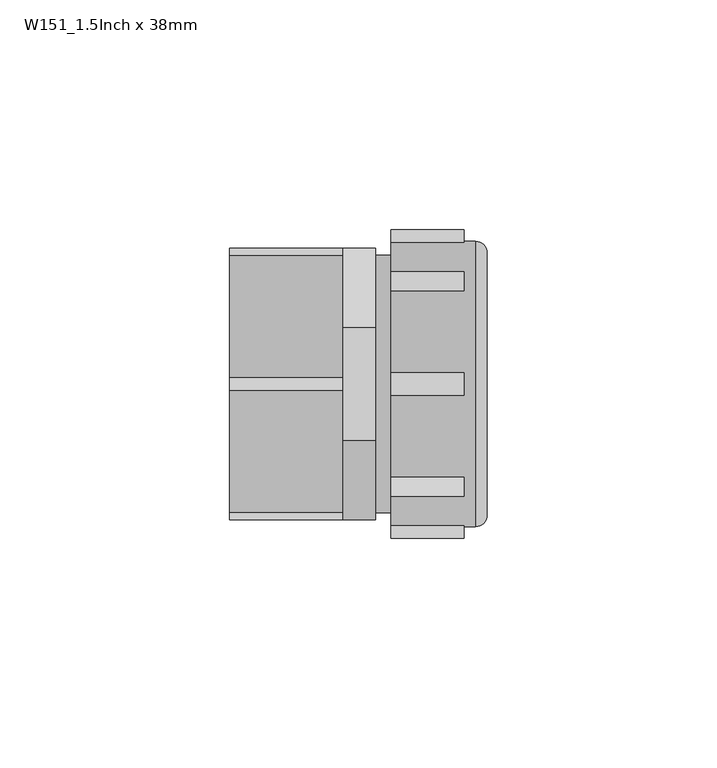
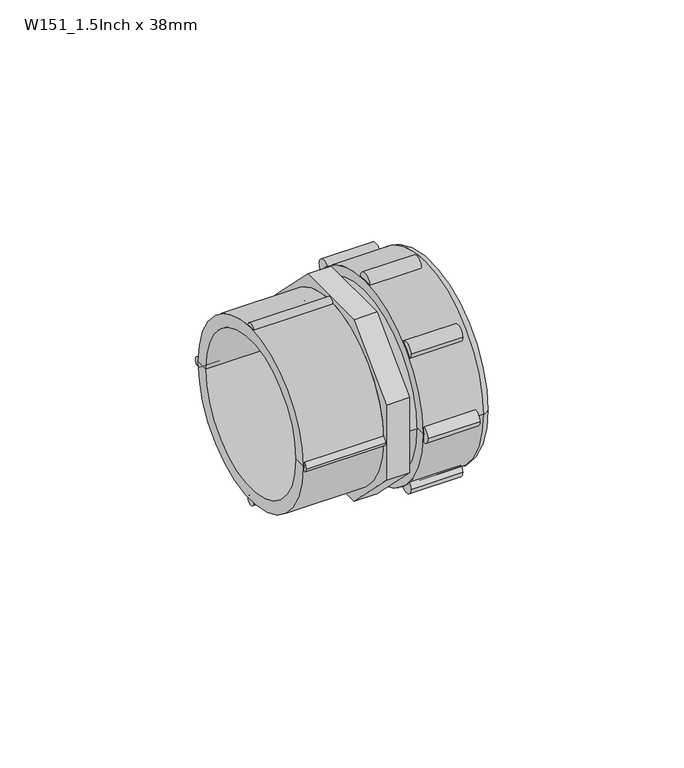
"""IFC4 building model written with IfcOpenShell, lengths in millimetres: pipe fitting geometry, Durapipe_PipeFitting_VulcatheneMechanical_FIToPipeCoupler_W15 : W151_1.5Inch x 38mm."""

from ifc_helpers import new_model, si_unit, point, frame, frame_2d, origin, place, context, project, spatial, polyline, circle_curve, ellipse_curve, trimmed, segment, composite_curve, outline, extrude, source, transform, mapped, element, save
from ifc_brep_helpers import plane_surface, cylinder_surface, revolved_surface, advanced_brep


def w151_1_5inch_x_38mm_36090209(model_context):
    return source(origin(), model_context, "Body", "SolidModel", [
        advanced_brep(
        [(23.8, 18.5969083, -18.5969083), (23.8, 17.1119841, -17.1119841), (23.8, -17.1119841, 17.1119841), (23.8, -18.5969083, 18.5969083), (18.8, 18.3140656, -18.3140656), (18.8, -18.3140656, 18.3140656), (17.3, 18.1019336, -18.1019336), (18.8, 18.1019336, -18.1019336), (18.8, -18.1019336, 18.1019336), (17.3, -18.1019336, 18.1019336), (17.3, -17.1119841, 17.1119841), (17.3, 17.1119841, -17.1119841), (19.3, -17.1119841, 17.1119841), (19.3, 17.1119841, -17.1119841), (19.3, -16.5462987, 16.5462987), (19.3, 16.5462987, -16.5462987), (21.6, 17.1119841, -17.1119841), (21.6, 16.5462987, -16.5462987), (21.6, -16.5462987, 16.5462987), (21.6, -17.1119841, 17.1119841)],
        [
            (0, 1),
            (1, 2, circle_curve(frame((23.8, 0.0, 0.0), z_axis=(-1.0, 0.0, 0.0), x_axis=(0.0, -0.7071067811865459, 0.7071067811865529)), 24.2)),
            (2, 3),
            (3, 0, circle_curve(frame((23.8, 0.0, 0.0), z_axis=(1.0, 0.0, 0.0), x_axis=(0.0, -0.7071067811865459, 0.7071067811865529)), 26.3)),
            (2, 1, circle_curve(frame((23.8, 0.0, 0.0), z_axis=(-1.0, 0.0, 0.0), x_axis=(0.0, -0.7071067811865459, 0.7071067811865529)), 24.2)),
            (0, 3, circle_curve(frame((23.8, 0.0, 0.0), z_axis=(1.0, 0.0, 0.0), x_axis=(0.0, -0.7071067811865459, 0.7071067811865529)), 26.3)),
            (4, 0),
            (3, 5),
            (5, 4, circle_curve(frame((18.8, 0.0, 0.0), z_axis=(1.0, 0.0, 0.0), x_axis=(0.0, -0.7071067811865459, 0.7071067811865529)), 25.9)),
            (4, 5, circle_curve(frame((18.8, 0.0, 0.0), z_axis=(1.0, 0.0, 0.0), x_axis=(0.0, -0.7071067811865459, 0.7071067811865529)), 25.9)),
            (6, 7),
            (7, 8, circle_curve(frame((18.8, 0.0, 0.0), z_axis=(-1.0, 0.0, 0.0), x_axis=(0.0, -0.7071067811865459, 0.7071067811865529)), 25.6)),
            (8, 9),
            (9, 6, circle_curve(frame((17.3, 0.0, 0.0), z_axis=(1.0, 0.0, 0.0), x_axis=(0.0, -0.7071067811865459, 0.7071067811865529)), 25.6)),
            (8, 7, circle_curve(frame((18.8, 0.0, 0.0), z_axis=(-1.0, 0.0, 0.0), x_axis=(0.0, -0.7071067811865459, 0.7071067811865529)), 25.6)),
            (6, 9, circle_curve(frame((17.3, 0.0, 0.0), z_axis=(1.0, 0.0, 0.0), x_axis=(0.0, -0.7071067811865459, 0.7071067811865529)), 25.6)),
            (9, 10),
            (10, 11, circle_curve(frame((17.3, 0.0, 0.0), z_axis=(1.0, 0.0, 0.0), x_axis=(0.0, -0.7071067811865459, 0.7071067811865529)), 24.2)),
            (11, 6),
            (11, 10, circle_curve(frame((17.3, 0.0, 0.0), z_axis=(1.0, 0.0, 0.0), x_axis=(0.0, -0.7071067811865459, 0.7071067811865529)), 24.2)),
            (10, 12),
            (12, 13, circle_curve(frame((19.3, 0.0, 0.0), z_axis=(1.0, 0.0, 0.0), x_axis=(0.0, -0.7071067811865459, 0.7071067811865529)), 24.2)),
            (13, 11),
            (13, 12, circle_curve(frame((19.3, 0.0, 0.0), z_axis=(1.0, 0.0, 0.0), x_axis=(0.0, -0.7071067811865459, 0.7071067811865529)), 24.2)),
            (12, 14),
            (14, 15, circle_curve(frame((19.3, 0.0, 0.0), z_axis=(1.0, 0.0, 0.0), x_axis=(0.0, -0.7071067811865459, 0.7071067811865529)), 23.4)),
            (15, 13),
            (15, 14, circle_curve(frame((19.3, 0.0, 0.0), z_axis=(1.0, 0.0, 0.0), x_axis=(0.0, -0.7071067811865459, 0.7071067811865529)), 23.4)),
            (16, 17),
            (17, 18, circle_curve(frame((21.6, 0.0, 0.0), z_axis=(-1.0, 0.0, 0.0), x_axis=(0.0, -0.7071067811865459, 0.7071067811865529)), 23.4)),
            (18, 19),
            (19, 16, circle_curve(frame((21.6, 0.0, 0.0), z_axis=(1.0, 0.0, 0.0), x_axis=(0.0, -0.7071067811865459, 0.7071067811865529)), 24.2)),
            (18, 17, circle_curve(frame((21.6, 0.0, 0.0), z_axis=(-1.0, 0.0, 0.0), x_axis=(0.0, -0.7071067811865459, 0.7071067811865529)), 23.4)),
            (16, 19, circle_curve(frame((21.6, 0.0, 0.0), z_axis=(1.0, 0.0, 0.0), x_axis=(0.0, -0.7071067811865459, 0.7071067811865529)), 24.2)),
            (1, 16),
            (19, 2),
            (14, 18),
            (17, 15),
            (5, 8),
            (7, 4),
        ],
        [
            plane_surface(frame((23.8, 0.0, 0.0), z_axis=(1.0, 0.0, 0.0), x_axis=(0.0, -0.707106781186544, 0.707106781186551))),
            revolved_surface(polyline([(23.8, -18.5969083, 18.5969083), (18.8, -18.3140656, 18.3140656)]), (28.8, 0.0, 0.0), (-1.0000000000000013, 0.0, 0.0)),
            cylinder_surface(frame((15.2293443, 0.0, 0.0), z_axis=(-1.0000000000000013, 0.0, 0.0), x_axis=(0.0, -0.7071067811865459, 0.7071067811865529)), 25.6),
            plane_surface(frame((17.3, 0.0, 0.0), z_axis=(-1.0, 0.0, 0.0), x_axis=(0.0, -0.707106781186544, 0.707106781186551))),
            revolved_surface(polyline([(17.30000000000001, -17.11198410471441, 17.11198410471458), (19.300000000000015, -17.11198410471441, 17.11198410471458)]), (13.807009, 0.0, 0.0), (-1.0000000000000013, 0.0, 0.0)),
            plane_surface(frame((19.3, 0.0, 0.0), z_axis=(-1.0, 0.0, 0.0), x_axis=(0.0, -0.707106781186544, 0.707106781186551))),
            plane_surface(frame((21.6, 0.0, 0.0), z_axis=(1.0, 0.0, 0.0), x_axis=(0.0, -0.707106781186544, 0.707106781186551))),
            revolved_surface(polyline([(21.59999999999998, -17.11198410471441, 17.11198410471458), (23.799999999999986, -17.11198410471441, 17.11198410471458)]), (28.8, 0.0, 0.0), (-1.0000000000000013, 0.0, 0.0)),
            revolved_surface(polyline([(19.299999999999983, -16.546298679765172, 16.546298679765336), (21.59999999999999, -16.546298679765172, 16.546298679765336)]), (25.3661924, 0.0, 0.0), (-1.0000000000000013, 0.0, 0.0)),
            plane_surface(frame((18.8, 0.0, 0.0), z_axis=(-1.0, 0.0, 0.0), x_axis=(0.0, -0.707106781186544, 0.707106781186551))),
        ],
        [
            (0, [[1, 2, 3, 4]]),
            (0, [[5, -1, 6, -3]]),
            (1, [[7, -4, 8, 9]]),
            (1, [[-8, -6, -7, 10]]),
            (2, [[11, 12, 13, 14]]),
            (2, [[15, -11, 16, -13]]),
            (3, [[17, 18, 19, -14]]),
            (3, [[-19, 20, -17, -16]]),
            (4, [[-18, 21, 22, 23]]),
            (4, [[24, -21, -20, -23]]),
            (5, [[25, 26, 27, -22]]),
            (5, [[-27, 28, -25, -24]]),
            (6, [[29, 30, 31, 32]]),
            (6, [[-31, 33, -29, 34]]),
            (7, [[35, -32, 36, -2]]),
            (7, [[-36, -34, -35, -5]]),
            (8, [[-26, 37, -30, 38]]),
            (8, [[-33, -37, -28, -38]]),
            (9, [[39, -12, 40, -9]]),
            (9, [[-40, -15, -39, -10]]),
        ],
    ),
        advanced_brep(
        [(7.1, 31.0, 0.0), (25.5, 31.0, 0.0), (25.5, -31.0, 0.0), (7.1, -31.0, 0.0), (7.1, 26.0, 0.0), (7.1, -26.0, 0.0), (28.0, 28.5, 0.0), (28.0, 24.0, 0.0), (28.0, -24.0, 0.0), (28.0, -28.5, 0.0), (23.8, 26.0, 0.0), (23.8, -26.0, 0.0), (23.8, 24.0, 0.0), (23.8, -24.0, 0.0)],
        [
            (0, 1),
            (1, 2, circle_curve(frame((25.5, 0.0, 0.0), z_axis=(-1.0, 0.0, 0.0), x_axis=(0.0, -1.0000000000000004, 0.0)), 31.0)),
            (2, 3),
            (3, 0, circle_curve(frame((7.1, 0.0, 0.0), z_axis=(1.0, 0.0, 0.0), x_axis=(0.0, -1.0000000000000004, 0.0)), 31.0)),
            (2, 1, circle_curve(frame((25.5, 0.0, 0.0), z_axis=(-1.0, 0.0, 0.0), x_axis=(0.0, -1.0000000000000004, 0.0)), 31.0)),
            (0, 3, circle_curve(frame((7.1, 0.0, 0.0), z_axis=(1.0, 0.0, 0.0), x_axis=(0.0, -1.0000000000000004, 0.0)), 31.0)),
            (4, 0),
            (3, 5),
            (5, 4, circle_curve(frame((7.1, 0.0, 0.0), z_axis=(1.0, 0.0, 0.0), x_axis=(0.0, -1.0000000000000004, 0.0)), 26.0)),
            (4, 5, circle_curve(frame((7.1, 0.0, 0.0), z_axis=(1.0, 0.0, 0.0), x_axis=(0.0, -1.0000000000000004, 0.0)), 26.0)),
            (6, 7),
            (7, 8, circle_curve(frame((28.0, 0.0, 0.0), z_axis=(-1.0, 0.0, 0.0), x_axis=(0.0, -1.0000000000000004, 0.0)), 24.0)),
            (8, 9),
            (9, 6, circle_curve(frame((28.0, 0.0, 0.0), z_axis=(1.0, 0.0, 0.0), x_axis=(0.0, -1.0000000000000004, 0.0)), 28.5)),
            (8, 7, circle_curve(frame((28.0, 0.0, 0.0), z_axis=(-1.0, 0.0, 0.0), x_axis=(0.0, -1.0000000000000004, 0.0)), 24.0)),
            (6, 9, circle_curve(frame((28.0, 0.0, 0.0), z_axis=(1.0, 0.0, 0.0), x_axis=(0.0, -1.0000000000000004, 0.0)), 28.5)),
            (1, 6, circle_curve(frame((25.5, 28.5, 0.0), z_axis=(0.0, 0.0, -1.0000000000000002), x_axis=(1.0000000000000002, 0.0, 0.0)), 2.5)),
            (9, 2, circle_curve(frame((25.5, -28.5, 0.0), z_axis=(0.0, 0.0, -1.0000000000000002), x_axis=(1.0000000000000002, 0.0, 0.0)), 2.5)),
            (10, 4),
            (5, 11),
            (11, 10, circle_curve(frame((23.8, 0.0, 0.0), z_axis=(1.0, 0.0, 0.0), x_axis=(0.0, -1.0000000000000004, 0.0)), 26.0)),
            (10, 11, circle_curve(frame((23.8, 0.0, 0.0), z_axis=(1.0, 0.0, 0.0), x_axis=(0.0, -1.0000000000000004, 0.0)), 26.0)),
            (12, 10),
            (11, 13),
            (13, 12, circle_curve(frame((23.8, 0.0, 0.0), z_axis=(1.0, 0.0, 0.0), x_axis=(0.0, -1.0000000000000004, 0.0)), 24.0)),
            (12, 13, circle_curve(frame((23.8, 0.0, 0.0), z_axis=(1.0, 0.0, 0.0), x_axis=(0.0, -1.0000000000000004, 0.0)), 24.0)),
            (7, 12),
            (13, 8),
        ],
        [
            cylinder_surface(frame((1588.8018184, 0.0, 0.0), z_axis=(-1.0000000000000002, 0.0, 0.0), x_axis=(0.0, -1.0000000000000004, 0.0)), 31.0),
            plane_surface(frame((7.1, 0.0, 0.0), z_axis=(-1.0, 0.0, 0.0), x_axis=(0.0, -1.0, 0.0))),
            plane_surface(frame((28.0, 0.0, 0.0), z_axis=(1.0, 0.0, 0.0), x_axis=(0.0, -1.0, 0.0))),
            revolved_surface(trimmed(ellipse_curve(frame((25.5, -28.5, 0.0), z_axis=(0.0, 0.0, -1.0000000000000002), x_axis=(1.0000000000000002, 0.0, 0.0)), 2.5, 2.5), [point((28.0, -28.5, 0.0))], [point((25.5, -31.0, 0.0))], True, "CARTESIAN"), (1588.8018184, 0.0, 0.0), (-1.0000000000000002, 0.0, 0.0)),
            revolved_surface(polyline([(7.0999999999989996, -26.00000000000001, 0.0), (23.799999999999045, -26.00000000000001, 0.0)]), (1588.8018184, 0.0, 0.0), (-1.0000000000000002, 0.0, 0.0)),
            plane_surface(frame((23.8, 0.0, 0.0), z_axis=(-1.0, 0.0, 0.0), x_axis=(0.0, -1.0, 0.0))),
            revolved_surface(polyline([(23.799999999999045, -24.00000000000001, 0.0), (27.99999999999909, -24.00000000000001, 0.0)]), (1588.8018184, 0.0, 0.0), (-1.0000000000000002, 0.0, 0.0)),
        ],
        [
            (0, [[1, 2, 3, 4]]),
            (0, [[-3, 5, -1, 6]]),
            (1, [[7, -4, 8, 9]]),
            (1, [[-8, -6, -7, 10]]),
            (2, [[11, 12, 13, 14]]),
            (2, [[-13, 15, -11, 16]]),
            (3, [[17, -14, 18, -2]]),
            (3, [[-18, -16, -17, -5]]),
            (4, [[19, -9, 20, 21]]),
            (4, [[-20, -10, -19, 22]]),
            (5, [[23, -21, 24, 25]]),
            (5, [[-24, -22, -23, 26]]),
            (6, [[27, -25, 28, -12]]),
            (6, [[-28, -26, -27, -15]]),
        ],
    ),
        extrude(outline(composite_curve([segment(trimmed(circle_curve(frame_2d((0.0, 31.0)), 2.5), [point((2.5, 31.0))], [point((-2.5, 31.0))], False, "CARTESIAN"), True, "CONTINUOUS"), segment(trimmed(circle_curve(frame_2d((0.0, 31.0)), 2.5), [point((-2.5, 31.0))], [point((2.5, 31.0))], False, "CARTESIAN"), True, "CONTINUOUS")], self_intersect=False)), frame((7.1, 0.0, 0.0), z_axis=(1.0, 0.0, 0.0), x_axis=(0.0, 1.0, 0.0)), (0.0, 0.0, 1.0), 15.9),
        extrude(outline(composite_curve([segment(trimmed(circle_curve(frame_2d((-21.9203102, 21.9203102)), 2.5), [point((-19.4203102, 21.9203102))], [point((-24.4203102, 21.9203102))], False, "CARTESIAN"), True, "CONTINUOUS"), segment(trimmed(circle_curve(frame_2d((-21.9203102, 21.9203102)), 2.5), [point((-24.4203102, 21.9203102))], [point((-19.4203102, 21.9203102))], False, "CARTESIAN"), True, "CONTINUOUS")], self_intersect=False)), frame((7.1, 0.0, 0.0), z_axis=(1.0, 0.0, 0.0), x_axis=(0.0, 1.0, 0.0)), (0.0, 0.0, 1.0), 15.9),
        extrude(outline(composite_curve([segment(trimmed(circle_curve(frame_2d((-31.0, 0.0)), 2.5), [point((-28.5, 0.0))], [point((-33.5, 0.0))], False, "CARTESIAN"), True, "CONTINUOUS"), segment(trimmed(circle_curve(frame_2d((-31.0, 0.0)), 2.5), [point((-33.5, 0.0))], [point((-28.5, 0.0))], False, "CARTESIAN"), True, "CONTINUOUS")], self_intersect=False)), frame((7.1, 0.0, 0.0), z_axis=(1.0, 0.0, 0.0), x_axis=(0.0, 1.0, 0.0)), (0.0, 0.0, 1.0), 15.9),
        extrude(outline(composite_curve([segment(trimmed(circle_curve(frame_2d((-21.9203102, -21.9203102)), 2.5), [point((-19.4203102, -21.9203102))], [point((-24.4203102, -21.9203102))], False, "CARTESIAN"), True, "CONTINUOUS"), segment(trimmed(circle_curve(frame_2d((-21.9203102, -21.9203102)), 2.5), [point((-24.4203102, -21.9203102))], [point((-19.4203102, -21.9203102))], False, "CARTESIAN"), True, "CONTINUOUS")], self_intersect=False)), frame((7.1, 0.0, 0.0), z_axis=(1.0, 0.0, 0.0), x_axis=(0.0, 1.0, 0.0)), (0.0, 0.0, 1.0), 15.9),
        extrude(outline(composite_curve([segment(trimmed(circle_curve(frame_2d((0.0, -31.0)), 2.5), [point((2.5, -31.0))], [point((-2.5, -31.0))], False, "CARTESIAN"), True, "CONTINUOUS"), segment(trimmed(circle_curve(frame_2d((0.0, -31.0)), 2.5), [point((-2.5, -31.0))], [point((2.5, -31.0))], False, "CARTESIAN"), True, "CONTINUOUS")], self_intersect=False)), frame((7.1, 0.0, 0.0), z_axis=(1.0, 0.0, 0.0), x_axis=(0.0, 1.0, 0.0)), (0.0, 0.0, 1.0), 15.9),
        extrude(outline(composite_curve([segment(trimmed(circle_curve(frame_2d((21.9203102, -21.9203102)), 2.5), [point((24.4203102, -21.9203102))], [point((19.4203102, -21.9203102))], False, "CARTESIAN"), True, "CONTINUOUS"), segment(trimmed(circle_curve(frame_2d((21.9203102, -21.9203102)), 2.5), [point((19.4203102, -21.9203102))], [point((24.4203102, -21.9203102))], False, "CARTESIAN"), True, "CONTINUOUS")], self_intersect=False)), frame((7.1, 0.0, 0.0), z_axis=(1.0, 0.0, 0.0), x_axis=(0.0, 1.0, 0.0)), (0.0, 0.0, 1.0), 15.9),
        extrude(outline(composite_curve([segment(trimmed(circle_curve(frame_2d((31.0, 0.0)), 2.5), [point((33.5, 0.0))], [point((28.5, 0.0))], False, "CARTESIAN"), True, "CONTINUOUS"), segment(trimmed(circle_curve(frame_2d((31.0, 0.0)), 2.5), [point((28.5, 0.0))], [point((33.5, 0.0))], False, "CARTESIAN"), True, "CONTINUOUS")], self_intersect=False)), frame((7.1, 0.0, 0.0), z_axis=(1.0, 0.0, 0.0), x_axis=(0.0, 1.0, 0.0)), (0.0, 0.0, 1.0), 15.9),
        extrude(outline(composite_curve([segment(trimmed(circle_curve(frame_2d((21.9203102, 21.9203102)), 2.5), [point((24.4203102, 21.9203102))], [point((19.4203102, 21.9203102))], False, "CARTESIAN"), True, "CONTINUOUS"), segment(trimmed(circle_curve(frame_2d((21.9203102, 21.9203102)), 2.5), [point((19.4203102, 21.9203102))], [point((24.4203102, 21.9203102))], False, "CARTESIAN"), True, "CONTINUOUS")], self_intersect=False)), frame((7.1, 0.0, 0.0), z_axis=(1.0, 0.0, 0.0), x_axis=(0.0, 1.0, 0.0)), (0.0, 0.0, 1.0), 15.9),
        advanced_brep(
        [(-28.0, -28.0, 0.0), (-28.0, 28.0, 0.0), (-3.4, 28.0, 0.0), (-3.4, -28.0, 0.0), (-28.0, -24.15, 0.0), (-28.0, 24.15, 0.0), (-3.4, -24.15, 0.0), (-3.4, 24.15, 0.0), (3.7, 12.2193001, 29.5), (3.7, -12.2193001, 29.5), (3.7, -29.5, 12.2193001), (3.7, -29.5, -12.2193001), (3.7, -12.2193001, -29.5), (3.7, 12.2193001, -29.5), (3.7, 29.5, -12.2193001), (3.7, 29.5, 12.2193001), (3.7, -20.75, 0.0), (3.7, 20.75, 0.0), (-3.4, -20.75, 0.0), (-3.4, 20.75, 0.0), (-3.4, 12.2193001, 29.5), (-3.4, 29.5, 12.2193001), (-3.4, 29.5, -12.2193001), (-3.4, 12.2193001, -29.5), (-3.4, -12.2193001, -29.5), (-3.4, -29.5, -12.2193001), (-3.4, -29.5, 12.2193001), (-3.4, -12.2193001, 29.5)],
        [
            (0, 1, circle_curve(frame((-28.0, 0.0, 0.0), z_axis=(1.0, 0.0, 0.0), x_axis=(0.0, 1.0, 0.0)), 28.0)),
            (1, 2),
            (2, 3, circle_curve(frame((-3.4, 0.0, 0.0), z_axis=(-1.0, 0.0, 0.0), x_axis=(0.0, 1.0, 0.0)), 28.0)),
            (3, 0),
            (1, 0, circle_curve(frame((-28.0, 0.0, 0.0), z_axis=(1.0, 0.0, 0.0), x_axis=(0.0, 1.0, 0.0)), 28.0)),
            (3, 2, circle_curve(frame((-3.4, 0.0, 0.0), z_axis=(-1.0, 0.0, 0.0), x_axis=(0.0, 1.0, 0.0)), 28.0)),
            (0, 4),
            (4, 5, circle_curve(frame((-28.0, 0.0, 0.0), z_axis=(1.0, 0.0, 0.0), x_axis=(0.0, 1.0, 0.0)), 24.15)),
            (5, 1),
            (5, 4, circle_curve(frame((-28.0, 0.0, 0.0), z_axis=(1.0, 0.0, 0.0), x_axis=(0.0, 1.0, 0.0)), 24.15)),
            (4, 6),
            (6, 7, circle_curve(frame((-3.4, 0.0, 0.0), z_axis=(1.0, 0.0, 0.0), x_axis=(0.0, 1.0, 0.0)), 24.15)),
            (7, 5),
            (7, 6, circle_curve(frame((-3.4, 0.0, 0.0), z_axis=(1.0, 0.0, 0.0), x_axis=(0.0, 1.0, 0.0)), 24.15)),
            (8, 9),
            (9, 10),
            (10, 11),
            (11, 12),
            (12, 13),
            (13, 14),
            (14, 15),
            (15, 8),
            (16, 17, circle_curve(frame((3.7, 0.0, 0.0), z_axis=(-1.0, 0.0, 0.0), x_axis=(0.0, 1.0, 0.0)), 20.75)),
            (17, 16, circle_curve(frame((3.7, 0.0, 0.0), z_axis=(-1.0, 0.0, 0.0), x_axis=(0.0, 1.0, 0.0)), 20.75)),
            (18, 19, circle_curve(frame((-3.4, 0.0, 0.0), z_axis=(1.0, 0.0, 0.0), x_axis=(0.0, 1.0, 0.0)), 20.75)),
            (19, 18, circle_curve(frame((-3.4, 0.0, 0.0), z_axis=(1.0, 0.0, 0.0), x_axis=(0.0, 1.0, 0.0)), 20.75)),
            (20, 21),
            (21, 22),
            (22, 23),
            (23, 24),
            (24, 25),
            (25, 26),
            (26, 27),
            (27, 20),
            (8, 20),
            (27, 9),
            (26, 10),
            (25, 11),
            (24, 12),
            (23, 13),
            (22, 14),
            (21, 15),
            (16, 18),
            (19, 17),
        ],
        [
            cylinder_surface(frame((-33.0, 0.0, 0.0), z_axis=(-1.0, 0.0, 0.0), x_axis=(0.0, 1.0, 0.0)), 28.0),
            plane_surface(frame((-28.0, 0.0, 0.0), z_axis=(-1.0, 0.0, 0.0), x_axis=(0.0, 1.0, 0.0))),
            revolved_surface(polyline([(-28.0, 24.15, 0.0), (-3.3999999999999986, 24.15, 0.0)]), (-33.0, 0.0, 0.0), (-1.0, 0.0, 0.0)),
            plane_surface(frame((3.7, -12.2193001, 29.5), z_axis=(1.0, 0.0, 0.0), x_axis=(0.0, -1.0, 0.0))),
            plane_surface(frame((-3.4, -12.2193001, 29.5), z_axis=(-1.0, 0.0, 0.0), x_axis=(0.0, 1.0, 0.0))),
            plane_surface(frame((3.7, 12.2193001, 29.5), z_axis=(0.0, 0.0, 1.0), x_axis=(-1.0, 0.0, 0.0))),
            plane_surface(frame((3.7, -12.2193001, 29.5), z_axis=(0.0, -0.7071067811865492, 0.7071067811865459), x_axis=(-1.0, 0.0, 0.0))),
            plane_surface(frame((3.7, -29.5, 12.2193001), z_axis=(0.0, -1.0, 0.0), x_axis=(-1.0, 0.0, 0.0))),
            plane_surface(frame((3.7, -29.5, -12.2193001), z_axis=(0.0, -0.7071067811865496, -0.7071067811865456), x_axis=(-1.0, 0.0, 0.0))),
            plane_surface(frame((3.7, -12.2193001, -29.5), z_axis=(0.0, 0.0, -1.0), x_axis=(-1.0, 0.0, 0.0))),
            plane_surface(frame((3.7, 12.2193001, -29.5), z_axis=(0.0, 0.7071067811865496, -0.7071067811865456), x_axis=(-1.0, 0.0, 0.0))),
            plane_surface(frame((3.7, 29.5, -12.2193001), z_axis=(0.0, 1.0, 0.0), x_axis=(-1.0, 0.0, 0.0))),
            plane_surface(frame((3.7, 29.5, 12.2193001), z_axis=(0.0, 0.7071067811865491, 0.707106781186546), x_axis=(-1.0, 0.0, 0.0))),
            revolved_surface(polyline([(-3.4, 20.75, 0.0), (3.7, 20.75, 0.0)]), (0.0, 0.0, 0.0), (-1.0, 0.0, 0.0)),
        ],
        [
            (0, [[1, 2, 3, 4]]),
            (0, [[-2, 5, -4, 6]]),
            (1, [[-1, 7, 8, 9]]),
            (1, [[-5, -9, 10, -7]]),
            (2, [[-8, 11, 12, 13]]),
            (2, [[-10, -13, 14, -11]]),
            (3, [[15, 16, 17, 18, 19, 20, 21, 22], [23, 24]]),
            (4, [[-12, -14], [25, 26]]),
            (4, [[27, 28, 29, 30, 31, 32, 33, 34], [-3, -6]]),
            (5, [[-15, 35, -34, 36]]),
            (6, [[-16, -36, -33, 37]]),
            (7, [[-17, -37, -32, 38]]),
            (8, [[-18, -38, -31, 39]]),
            (9, [[-19, -39, -30, 40]]),
            (10, [[-20, -40, -29, 41]]),
            (11, [[-21, -41, -28, 42]]),
            (12, [[-22, -42, -27, -35]]),
            (13, [[-23, 43, -26, 44]]),
            (13, [[-24, -44, -25, -43]]),
        ],
    ),
        extrude(outline(composite_curve([segment(trimmed(circle_curve(frame_2d((0.0, 28.0)), 1.5), [point((-1.5, 28.0))], [point((1.5, 28.0))], False, "CARTESIAN"), True, "CONTINUOUS"), segment(trimmed(circle_curve(frame_2d((0.0, 28.0)), 1.5), [point((1.5, 28.0))], [point((-1.5, 28.0))], False, "CARTESIAN"), True, "CONTINUOUS")], self_intersect=False)), frame((-28.0, 0.0, 0.0), z_axis=(1.0, 0.0, 0.0), x_axis=(0.0, 1.0, 0.0)), (0.0, 0.0, 1.0), 24.6),
        extrude(outline(composite_curve([segment(trimmed(circle_curve(frame_2d((28.0, 0.0)), 1.5), [point((26.5, 0.0))], [point((29.5, 0.0))], False, "CARTESIAN"), True, "CONTINUOUS"), segment(trimmed(circle_curve(frame_2d((28.0, 0.0)), 1.5), [point((29.5, 0.0))], [point((26.5, 0.0))], False, "CARTESIAN"), True, "CONTINUOUS")], self_intersect=False)), frame((-28.0, 0.0, 0.0), z_axis=(1.0, 0.0, 0.0), x_axis=(0.0, 1.0, 0.0)), (0.0, 0.0, 1.0), 24.6),
        extrude(outline(composite_curve([segment(trimmed(circle_curve(frame_2d((-28.0, 0.0)), 1.5), [point((-29.5, 0.0))], [point((-26.5, 0.0))], False, "CARTESIAN"), True, "CONTINUOUS"), segment(trimmed(circle_curve(frame_2d((-28.0, 0.0)), 1.5), [point((-26.5, 0.0))], [point((-29.5, 0.0))], False, "CARTESIAN"), True, "CONTINUOUS")], self_intersect=False)), frame((-28.0, 0.0, 0.0), z_axis=(1.0, 0.0, 0.0), x_axis=(0.0, 1.0, 0.0)), (0.0, 0.0, 1.0), 24.6),
        extrude(outline(composite_curve([segment(trimmed(circle_curve(frame_2d((0.0, -28.0)), 1.5), [point((-1.5, -28.0))], [point((1.5, -28.0))], False, "CARTESIAN"), True, "CONTINUOUS"), segment(trimmed(circle_curve(frame_2d((0.0, -28.0)), 1.5), [point((1.5, -28.0))], [point((-1.5, -28.0))], False, "CARTESIAN"), True, "CONTINUOUS")], self_intersect=False)), frame((-28.0, 0.0, 0.0), z_axis=(1.0, 0.0, 0.0), x_axis=(0.0, 1.0, 0.0)), (0.0, 0.0, 1.0), 24.6),
        advanced_brep(
        [(-3.4, -20.75, 0.0), (-3.4, 20.75, 0.0), (-3.4, 28.0, 0.0), (-3.4, -28.0, 0.0), (-0.7, -20.75, 0.0), (-0.7, 20.75, 0.0), (-0.7, -24.15, 0.0), (-0.7, 24.15, 0.0), (23.7, -24.15, 0.0), (23.7, 24.15, 0.0), (23.7, -28.0, 0.0), (23.7, 28.0, 0.0)],
        [
            (0, 1, circle_curve(frame((-3.4, 0.0, 0.0), z_axis=(1.0, 0.0, 0.0), x_axis=(0.0, 1.0, 0.0)), 20.75)),
            (1, 2),
            (2, 3, circle_curve(frame((-3.4, 0.0, 0.0), z_axis=(-1.0, 0.0, 0.0), x_axis=(0.0, 1.0, 0.0)), 28.0)),
            (3, 0),
            (1, 0, circle_curve(frame((-3.4, 0.0, 0.0), z_axis=(1.0, 0.0, 0.0), x_axis=(0.0, 1.0, 0.0)), 20.75)),
            (3, 2, circle_curve(frame((-3.4, 0.0, 0.0), z_axis=(-1.0, 0.0, 0.0), x_axis=(0.0, 1.0, 0.0)), 28.0)),
            (4, 5, circle_curve(frame((-0.7, 0.0, 0.0), z_axis=(1.0, 0.0, 0.0), x_axis=(0.0, 1.0, 0.0)), 20.75)),
            (5, 1),
            (0, 4),
            (5, 4, circle_curve(frame((-0.7, 0.0, 0.0), z_axis=(1.0, 0.0, 0.0), x_axis=(0.0, 1.0, 0.0)), 20.75)),
            (6, 7, circle_curve(frame((-0.7, 0.0, 0.0), z_axis=(1.0, 0.0, 0.0), x_axis=(0.0, 1.0, 0.0)), 24.15)),
            (7, 5),
            (4, 6),
            (7, 6, circle_curve(frame((-0.7, 0.0, 0.0), z_axis=(1.0, 0.0, 0.0), x_axis=(0.0, 1.0, 0.0)), 24.15)),
            (8, 9, circle_curve(frame((23.7, 0.0, 0.0), z_axis=(1.0, 0.0, 0.0), x_axis=(0.0, 1.0, 0.0)), 24.15)),
            (9, 7),
            (6, 8),
            (9, 8, circle_curve(frame((23.7, 0.0, 0.0), z_axis=(1.0, 0.0, 0.0), x_axis=(0.0, 1.0, 0.0)), 24.15)),
            (10, 11, circle_curve(frame((23.7, 0.0, 0.0), z_axis=(1.0, 0.0, 0.0), x_axis=(0.0, 1.0, 0.0)), 28.0)),
            (11, 9),
            (8, 10),
            (11, 10, circle_curve(frame((23.7, 0.0, 0.0), z_axis=(1.0, 0.0, 0.0), x_axis=(0.0, 1.0, 0.0)), 28.0)),
            (2, 11),
            (10, 3),
        ],
        [
            plane_surface(frame((-3.4, 0.0, 0.0), z_axis=(-1.0, 0.0, 0.0), x_axis=(0.0, 1.0, 0.0))),
            revolved_surface(polyline([(-3.3999999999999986, 20.75, 0.0), (-0.6999999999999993, 20.75, 0.0)]), (30.1840423, 0.0, 0.0), (-1.0, 0.0, 0.0)),
            plane_surface(frame((-0.7, 0.0, 0.0), z_axis=(1.0, 0.0, 0.0), x_axis=(0.0, 1.0, 0.0))),
            revolved_surface(polyline([(-0.6999999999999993, 24.15, 0.0), (23.7, 24.15, 0.0)]), (30.1840423, 0.0, 0.0), (-1.0, 0.0, 0.0)),
            plane_surface(frame((23.7, 0.0, 0.0), z_axis=(1.0, 0.0, 0.0), x_axis=(0.0, 1.0, 0.0))),
            cylinder_surface(frame((30.1840423, 0.0, 0.0), z_axis=(-1.0, 0.0, 0.0), x_axis=(0.0, 1.0, 0.0)), 28.0),
        ],
        [
            (0, [[1, 2, 3, 4]]),
            (0, [[5, -4, 6, -2]]),
            (1, [[7, 8, -1, 9]]),
            (1, [[10, -9, -5, -8]]),
            (2, [[11, 12, -7, 13]]),
            (2, [[14, -13, -10, -12]]),
            (3, [[15, 16, -11, 17]]),
            (3, [[18, -17, -14, -16]]),
            (4, [[19, 20, -15, 21]]),
            (4, [[22, -21, -18, -20]]),
            (5, [[-3, 23, -19, 24]]),
            (5, [[-6, -24, -22, -23]]),
        ],
    ),
    ])


if __name__ == "__main__":
    model = new_model("IFC4")
    model_context = context("Model", 3, world=origin())
    ifc_project = project(units=[si_unit("LENGTHUNIT", "METRE", prefix="MILLI")], contexts=[model_context])
    site = spatial("IfcSite", under=ifc_project)
    building = spatial("IfcBuilding", under=site)
    placement = place(None, origin())
    w151_1_5inch_x_38mm_shape = w151_1_5inch_x_38mm_36090209(model_context)
    element("IfcPipeFitting", 1, ObjectType="Durapipe_PipeFitting_VulcatheneMechanical_FIToPipeCoupler_W15 : W151_1.5Inch x 38mm", at=placement, inside=building, context=model_context, shape_type="MappedRepresentation", body=[
        mapped(w151_1_5inch_x_38mm_shape, transform((0.0, 0.0, 0.0), x_axis=(1.0, 0.0, 0.0), y_axis=(0.0, 1.0, 0.0), z_axis=(0.0, 0.0, 1.0))),
    ])
    save(model, "model.ifc")
